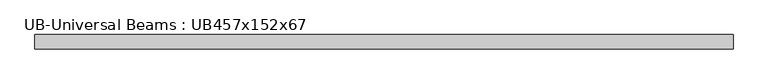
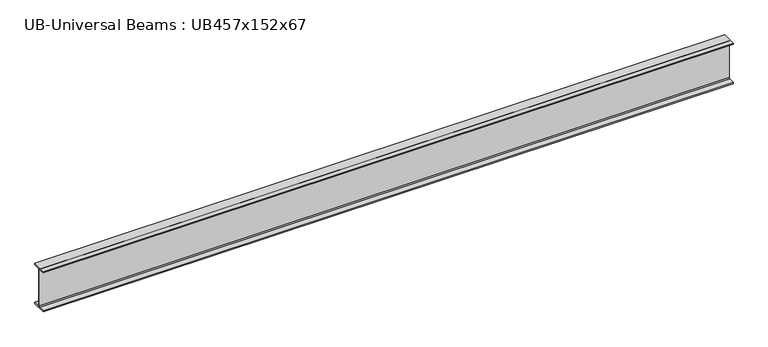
"""IFC4 building model written with IfcOpenShell, lengths in millimetres: beam geometry, UB-Universal Beams : UB457x152x67."""

from ifc_helpers import new_model, si_unit, point, frame, frame_2d, origin, place, context, project, spatial, polyline, circle_curve, trimmed, segment, composite_curve, outline, extrude, source, transform, mapped, element, save


def ub_universal_beams_ub457x152x67_d270934e(model_context):
    return source(origin(), model_context, "Body", "SweptSolid", [
        extrude(outline(composite_curve([segment(polyline([(76.9, -214.0), (76.9, -229.0), (-76.9, -229.0), (-76.9, -214.0), (-14.7, -214.0)]), True, "CONTINUOUS"), segment(trimmed(circle_curve(frame_2d((-14.7, -203.8)), 10.2), [point((-14.7, -214.0))], [point((-4.5, -203.8))], True, "CARTESIAN"), True, "CONTINUOUS"), segment(polyline([(-4.5, -203.8), (-4.5, 203.8)]), True, "CONTINUOUS"), segment(trimmed(circle_curve(frame_2d((-14.7, 203.8)), 10.2), [point((-4.5, 203.8))], [point((-14.7, 214.0))], True, "CARTESIAN"), True, "CONTINUOUS"), segment(polyline([(-14.7, 214.0), (-76.9, 214.0), (-76.9, 229.0), (76.9, 229.0), (76.9, 214.0), (14.7, 214.0)]), True, "CONTINUOUS"), segment(trimmed(circle_curve(frame_2d((14.7, 203.8)), 10.2), [point((14.7, 214.0))], [point((4.5, 203.8))], True, "CARTESIAN"), True, "CONTINUOUS"), segment(polyline([(4.5, 203.8), (4.5, -203.8)]), True, "CONTINUOUS"), segment(trimmed(circle_curve(frame_2d((14.7, -203.8)), 10.2), [point((4.5, -203.8))], [point((14.7, -214.0))], True, "CARTESIAN"), True, "CONTINUOUS"), segment(polyline([(14.7, -214.0), (76.9, -214.0)]), True, "CONTINUOUS")], self_intersect=False)), frame((-3699.1, 0.0, 0.0), z_axis=(1.0, 0.0, 0.0), x_axis=(0.0, 1.0, 0.0)), (0.0, 0.0, 1.0), 7398.2),
    ])


if __name__ == "__main__":
    model = new_model("IFC4")
    model_context = context("Model", 3, world=origin())
    ifc_project = project(units=[si_unit("LENGTHUNIT", "METRE", prefix="MILLI")], contexts=[model_context])
    site = spatial("IfcSite", under=ifc_project)
    building = spatial("IfcBuilding", under=site)
    placement = place(None, origin())
    ub_universal_beams_ub457x152x67_shape = ub_universal_beams_ub457x152x67_d270934e(model_context)
    element("IfcBeam", 1, ObjectType="UB-Universal Beams : UB457x152x67", at=placement, inside=building, context=model_context, shape_type="MappedRepresentation", body=[
        mapped(ub_universal_beams_ub457x152x67_shape, transform((0.0, 0.0, 0.0), x_axis=(1.0, 0.0, 0.0), y_axis=(0.0, 1.0, 0.0), z_axis=(0.0, 0.0, 1.0))),
    ])
    save(model, "model.ifc")
